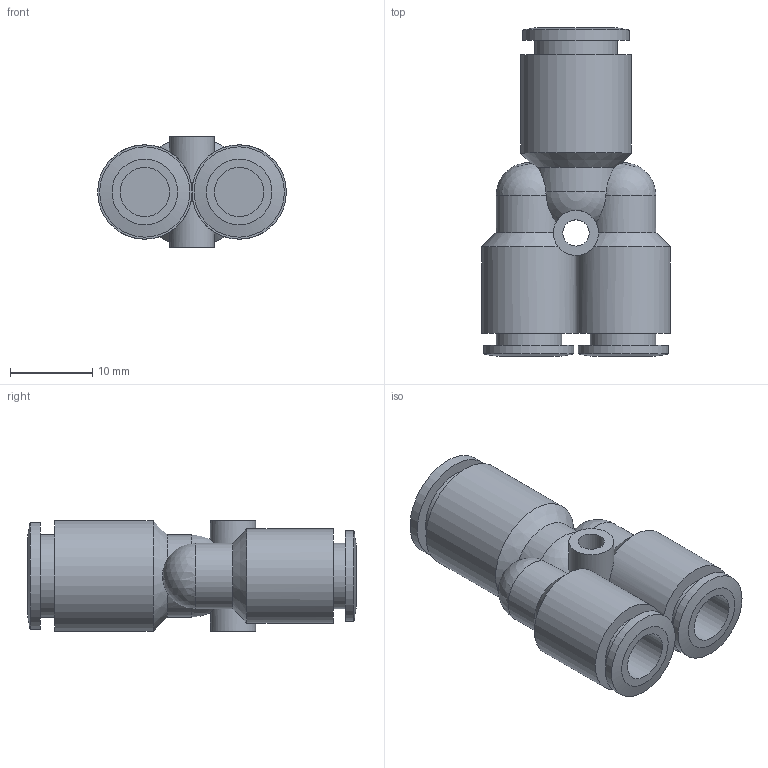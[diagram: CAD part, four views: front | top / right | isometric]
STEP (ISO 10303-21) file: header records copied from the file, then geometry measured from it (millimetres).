
FILE_DESCRIPTION((''),'2;1');
FILE_NAME('C:\Documents and Settings\rivolro1\Documenti\copia di Raccordi\PLASTICA\T23XXXX\T230608.stp','2007-11-02T14:44:30',('Rivolro1'),(''),'Autodesk Inventor 2008','Autodesk Inventor 2008','');
FILE_SCHEMA(('AUTOMOTIVE_DESIGN { 1 0 10303 214 1 1 1 1 }'));
Length unit declared in the file: millimetre
Products named in the file (1): T230608
Bounding box: 23 x 40 x 13.5 mm (x, y, z)
Volume: 4713.7 mm3; surface area: 3910.2 mm2
Topology: 1 solids, 1 shells, 43 faces, 102 edges, 63 vertices
Faces by surface type: cylinder 18, plane 14, cone 6, sphere 4, bspline 1
Full cylindrical faces by diameter (mm): 5.5 x2, 6 x2, 8 x3, 10.1 x1, 11 x2, 11.5 x2, 13 x1, 13.5 x1
Entity records: 1433 total; most frequent: CARTESIAN_POINT 507, DIRECTION 186, ORIENTED_EDGE 150, AXIS2_PLACEMENT_3D 92, EDGE_CURVE 75, EDGE_LOOP 71, VERTEX_POINT 59, CIRCLE 49
